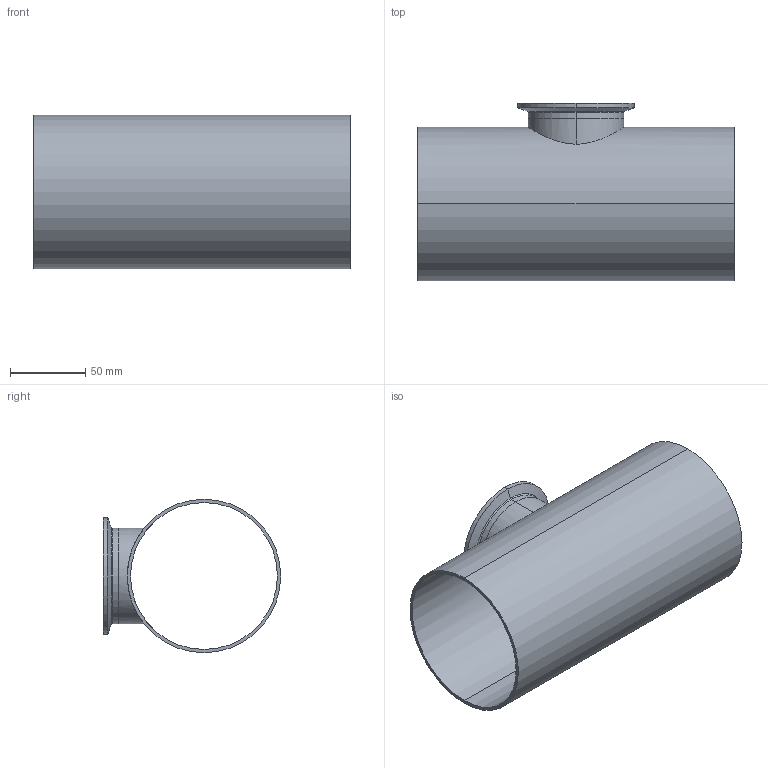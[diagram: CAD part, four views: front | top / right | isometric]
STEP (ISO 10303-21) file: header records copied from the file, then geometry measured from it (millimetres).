
FILE_DESCRIPTION (( 'STEP AP214' ), '1' );
FILE_NAME ('TE7RWWCS6L4.0x2.5-...STEP', '2016-05-23T12:31:15', ( 'eran' ), ( '' ), 'SwSTEP 2.0', 'SolidWorks 2016', '' );
FILE_SCHEMA (( 'AUTOMOTIVE_DESIGN' ));
Length unit declared in the file: millimetre
Products named in the file (1): TE7RWWCS6L4.0x2.5-..
Bounding box: 209.6 x 117.5 x 101.6 mm (x, y, z)
Volume: 144605.2 mm3; surface area: 138403.7 mm2
Topology: 2 solids, 2 shells, 36 faces, 88 edges, 58 vertices
Faces by surface type: cylinder 14, bspline 10, plane 6, cone 6
Entity records: 2066 total; most frequent: CARTESIAN_POINT 1161, DIRECTION 190, ORIENTED_EDGE 176, EDGE_CURVE 88, AXIS2_PLACEMENT_3D 85, CIRCLE 58, VERTEX_POINT 58, EDGE_LOOP 44
